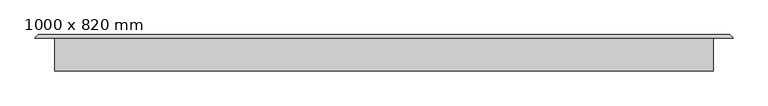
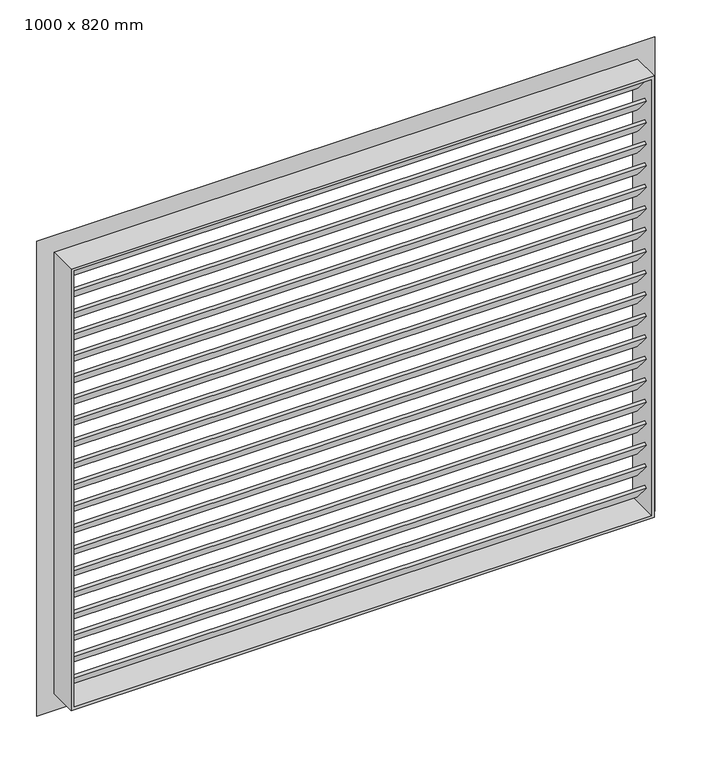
"""IFC4 building model written with IfcOpenShell, lengths in millimetres: proxy geometry, Grille d'aération - Mur : 1000 x 820 mm."""

from ifc_helpers import new_model, si_unit, frame, origin, place, context, project, spatial, polyline, outline, extrude, faceted_brep, source, transform, mapped, element, save


def proxy_1000_x_820_mm_135eeedb(model_context):
    return source(origin(), model_context, "Body", "SolidModel", [
        extrude(outline(polyline([(0.0, -5.0), (0.0, 0.0), (990.0, 0.0), (990.0, -5.0), (0.0, -5.0)])), frame((620.0, 90.0, 2053.9473684), z_axis=(0.0, -0.6427876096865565, 0.7660444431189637), x_axis=(-1.0, 0.0, 0.0)), (0.0, 0.0, 1.0), 40.0),
        extrude(outline(polyline([(0.0, -5.0), (0.0, 0.0), (990.0, 0.0), (990.0, -5.0), (0.0, -5.0)])), frame((620.0, 90.0, 2092.8947368), z_axis=(0.0, -0.6427876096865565, 0.7660444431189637), x_axis=(-1.0, 0.0, 0.0)), (0.0, 0.0, 1.0), 40.0),
        extrude(outline(polyline([(0.0, -5.0), (0.0, 0.0), (990.0, 0.0), (990.0, -5.0), (0.0, -5.0)])), frame((620.0, 90.0, 2131.8421053), z_axis=(0.0, -0.6427876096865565, 0.7660444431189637), x_axis=(-1.0, 0.0, 0.0)), (0.0, 0.0, 1.0), 40.0),
        extrude(outline(polyline([(0.0, -5.0), (0.0, 0.0), (990.0, 0.0), (990.0, -5.0), (0.0, -5.0)])), frame((620.0, 90.0, 2170.7894737), z_axis=(0.0, -0.6427876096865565, 0.7660444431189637), x_axis=(-1.0, 0.0, 0.0)), (0.0, 0.0, 1.0), 40.0),
        extrude(outline(polyline([(0.0, -5.0), (0.0, 0.0), (990.0, 0.0), (990.0, -5.0), (0.0, -5.0)])), frame((620.0, 90.0, 2209.7368421), z_axis=(0.0, -0.6427876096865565, 0.7660444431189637), x_axis=(-1.0, 0.0, 0.0)), (0.0, 0.0, 1.0), 40.0),
        extrude(outline(polyline([(0.0, -5.0), (0.0, 0.0), (990.0, 0.0), (990.0, -5.0), (0.0, -5.0)])), frame((620.0, 90.0, 2248.6842105), z_axis=(0.0, -0.6427876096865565, 0.7660444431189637), x_axis=(-1.0, 0.0, 0.0)), (0.0, 0.0, 1.0), 40.0),
        extrude(outline(polyline([(0.0, -5.0), (0.0, 0.0), (990.0, 0.0), (990.0, -5.0), (0.0, -5.0)])), frame((620.0, 90.0, 2287.6315789), z_axis=(0.0, -0.6427876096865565, 0.7660444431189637), x_axis=(-1.0, 0.0, 0.0)), (0.0, 0.0, 1.0), 40.0),
        extrude(outline(polyline([(0.0, -5.0), (0.0, 0.0), (990.0, 0.0), (990.0, -5.0), (0.0, -5.0)])), frame((620.0, 90.0, 2326.5789474), z_axis=(0.0, -0.6427876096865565, 0.7660444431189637), x_axis=(-1.0, 0.0, 0.0)), (0.0, 0.0, 1.0), 40.0),
        extrude(outline(polyline([(0.0, -5.0), (0.0, 0.0), (990.0, 0.0), (990.0, -5.0), (0.0, -5.0)])), frame((620.0, 90.0, 2365.5263158), z_axis=(0.0, -0.6427876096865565, 0.7660444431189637), x_axis=(-1.0, 0.0, 0.0)), (0.0, 0.0, 1.0), 40.0),
        extrude(outline(polyline([(0.0, -5.0), (0.0, 0.0), (990.0, 0.0), (990.0, -5.0), (0.0, -5.0)])), frame((620.0, 90.0, 2404.4736842), z_axis=(0.0, -0.6427876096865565, 0.7660444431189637), x_axis=(-1.0, 0.0, 0.0)), (0.0, 0.0, 1.0), 40.0),
        extrude(outline(polyline([(0.0, -5.0), (0.0, 0.0), (990.0, 0.0), (990.0, -5.0), (0.0, -5.0)])), frame((620.0, 90.0, 2443.4210526), z_axis=(0.0, -0.6427876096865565, 0.7660444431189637), x_axis=(-1.0, 0.0, 0.0)), (0.0, 0.0, 1.0), 40.0),
        extrude(outline(polyline([(0.0, -5.0), (0.0, 0.0), (990.0, 0.0), (990.0, -5.0), (0.0, -5.0)])), frame((620.0, 90.0, 2482.3684211), z_axis=(0.0, -0.6427876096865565, 0.7660444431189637), x_axis=(-1.0, 0.0, 0.0)), (0.0, 0.0, 1.0), 40.0),
        extrude(outline(polyline([(0.0, -5.0), (0.0, 0.0), (990.0, 0.0), (990.0, -5.0), (0.0, -5.0)])), frame((620.0, 90.0, 2521.3157895), z_axis=(0.0, -0.6427876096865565, 0.7660444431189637), x_axis=(-1.0, 0.0, 0.0)), (0.0, 0.0, 1.0), 40.0),
        extrude(outline(polyline([(0.0, -5.0), (0.0, 0.0), (990.0, 0.0), (990.0, -5.0), (0.0, -5.0)])), frame((620.0, 90.0, 2560.2631579), z_axis=(0.0, -0.6427876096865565, 0.7660444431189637), x_axis=(-1.0, 0.0, 0.0)), (0.0, 0.0, 1.0), 40.0),
        extrude(outline(polyline([(0.0, -5.0), (0.0, 0.0), (990.0, 0.0), (990.0, -5.0), (0.0, -5.0)])), frame((620.0, 90.0, 2599.2105263), z_axis=(0.0, -0.6427876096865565, 0.7660444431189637), x_axis=(-1.0, 0.0, 0.0)), (0.0, 0.0, 1.0), 40.0),
        extrude(outline(polyline([(0.0, -5.0), (0.0, 0.0), (990.0, 0.0), (990.0, -5.0), (0.0, -5.0)])), frame((620.0, 90.0, 2638.1578947), z_axis=(0.0, -0.6427876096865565, 0.7660444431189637), x_axis=(-1.0, 0.0, 0.0)), (0.0, 0.0, 1.0), 40.0),
        extrude(outline(polyline([(0.0, -5.0), (0.0, 0.0), (990.0, 0.0), (990.0, -5.0), (0.0, -5.0)])), frame((620.0, 90.0, 2677.1052632), z_axis=(0.0, -0.6427876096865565, 0.7660444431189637), x_axis=(-1.0, 0.0, 0.0)), (0.0, 0.0, 1.0), 40.0),
        extrude(outline(polyline([(0.0, -5.0), (0.0, 0.0), (990.0, 0.0), (990.0, -5.0), (0.0, -5.0)])), frame((620.0, 90.0, 2716.0526316), z_axis=(0.0, -0.6427876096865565, 0.7660444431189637), x_axis=(-1.0, 0.0, 0.0)), (0.0, 0.0, 1.0), 40.0),
        extrude(outline(polyline([(0.0, -5.0), (0.0, 0.0), (990.0, 0.0), (990.0, -5.0), (0.0, -5.0)])), frame((620.0, 90.0, 2015.0), z_axis=(0.0, -0.6427876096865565, 0.7660444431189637), x_axis=(-1.0, 0.0, 0.0)), (0.0, 0.0, 1.0), 40.0),
        extrude(outline(polyline([(0.0, -5.0), (0.0, 0.0), (990.0, 0.0), (990.0, -5.0), (0.0, -5.0)])), frame((620.0, 90.0, 2755.0), z_axis=(0.0, -0.6427876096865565, 0.7660444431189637), x_axis=(-1.0, 0.0, 0.0)), (0.0, 0.0, 1.0), 40.0),
        faceted_brep([(-375.0, 50.0, 2800.0), (-375.0, 100.0, 2800.0), (-375.0, 100.0, 2000.0), (-375.0, 50.0, 2000.0), (-370.0, 105.0, 2795.0), (-370.0, 50.0, 2795.0), (-370.0, 50.0, 2005.0), (-370.0, 105.0, 2005.0), (-405.284753, 100.0, 2830.284753), (-400.284753, 105.0, 2825.284753), (-400.284753, 105.0, 1974.715247), (-405.284753, 100.0, 1969.715247), (625.0, 100.0, 2000.0), (625.0, 50.0, 2000.0), (620.0, 50.0, 2005.0), (620.0, 105.0, 2005.0), (650.284753, 105.0, 1974.715247), (655.284753, 100.0, 1969.715247), (625.0, 100.0, 2800.0), (625.0, 50.0, 2800.0), (620.0, 50.0, 2795.0), (620.0, 105.0, 2795.0), (650.284753, 105.0, 2825.284753), (655.284753, 100.0, 2830.284753)], [[[0, 1, 2, 3]], [[4, 5, 6, 7]], [[8, 9, 10, 11]], [[3, 2, 12, 13]], [[7, 6, 14, 15]], [[11, 10, 16, 17]], [[13, 12, 18, 19]], [[15, 14, 20, 21]], [[17, 16, 22, 23]], [[19, 18, 1, 0]], [[3, 13, 19, 0], [5, 20, 14, 6]], [[21, 20, 5, 4]], [[9, 22, 16, 10], [7, 15, 21, 4]], [[23, 22, 9, 8]], [[11, 17, 23, 8], [1, 18, 12, 2]]]),
    ])


if __name__ == "__main__":
    model = new_model("IFC4")
    model_context = context("Model", 3, world=origin())
    ifc_project = project(units=[si_unit("LENGTHUNIT", "METRE", prefix="MILLI")], contexts=[model_context])
    site = spatial("IfcSite", under=ifc_project)
    building = spatial("IfcBuilding", under=site)
    placement = place(None, origin())
    proxy_1000_x_820_mm_shape = proxy_1000_x_820_mm_135eeedb(model_context)
    element("IfcBuildingElementProxy", 1, Name="Grille d'aération - Mur : 1000 x 820 mm", ObjectType="Grille d'aération - Mur : 1000 x 820 mm", at=placement, inside=building, context=model_context, shape_type="MappedRepresentation", body=[
        mapped(proxy_1000_x_820_mm_shape, transform((0.0, 0.0, 0.0), x_axis=(1.0, 0.0, 0.0), y_axis=(0.0, 1.0, 0.0), z_axis=(0.0, 0.0, 1.0))),
    ])
    save(model, "model.ifc")
